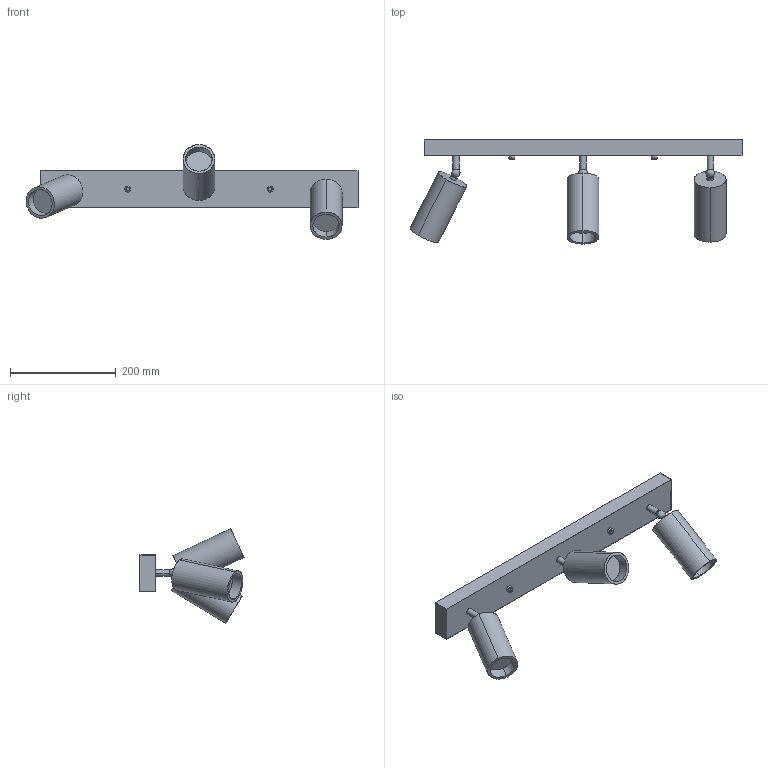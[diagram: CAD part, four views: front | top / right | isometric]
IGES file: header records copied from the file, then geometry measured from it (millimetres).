
Start section: SolidWorks IGES file using analytic representation for surfaces
Global section: file name: F:\燠隴矨\3D\2025-9\Nimbus Ceiling Spotlight-3lights.IGS,15; native system: HSolidWorks 2022; preprocessor: SolidWorks 2022; author: MyPC; date: 250913.091536; units: millimetre
Bounding box: 626.52 x 196.43 x 178.55 mm (x, y, z)
Surface area: 265199.5 mm2 (no closed solid volume)
Topology: 0 solids, 0 shells, 74 faces, 1480 edges, 1474 vertices
Faces by surface type: bspline 40, revolution 34
